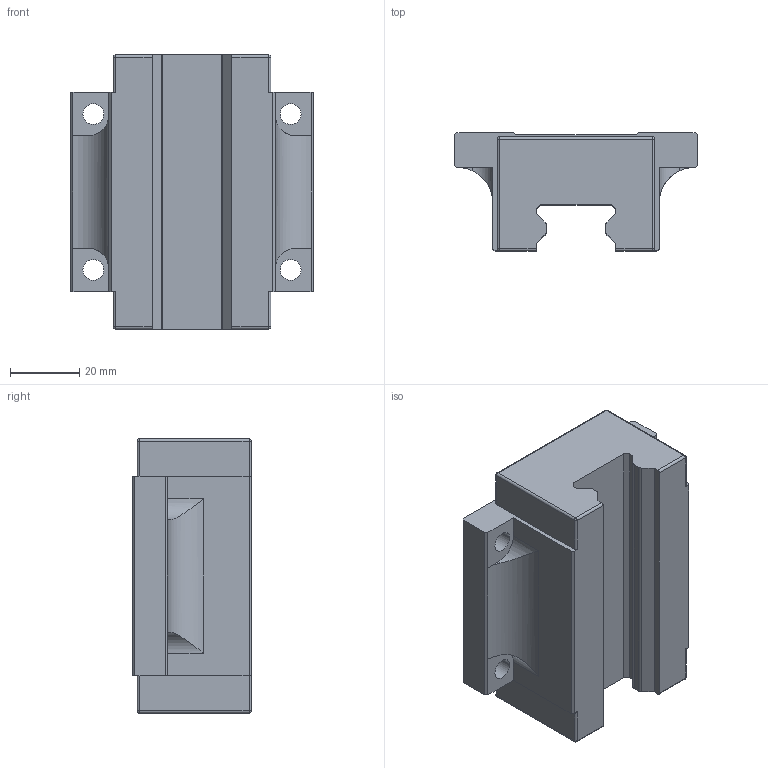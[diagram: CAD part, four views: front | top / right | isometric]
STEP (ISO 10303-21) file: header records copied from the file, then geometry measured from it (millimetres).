
FILE_DESCRIPTION (( 'STEP AP203' ), '1' );
FILE_NAME ('Default.step', '2019-06-13T14:21:12', ( '' ), ( '' ), 'SwSTEP 2.0', 'SolidWorks 2017', '' );
FILE_SCHEMA (( 'CONFIG_CONTROL_DESIGN' ));
Length unit declared in the file: millimetre
Products named in the file (1): Default
Bounding box: 70 x 34.2 x 79.2 mm (x, y, z)
Volume: 117169.8 mm3; surface area: 20958.9 mm2
Topology: 1 solids, 1 shells, 92 faces, 250 edges, 152 vertices
Faces by surface type: plane 48, cylinder 36, sphere 8
Entity records: 2987 total; most frequent: CARTESIAN_POINT 579, DIRECTION 492, ORIENTED_EDGE 484, EDGE_CURVE 242, LINE 170, VECTOR 170, AXIS2_PLACEMENT_3D 161, VERTEX_POINT 152
